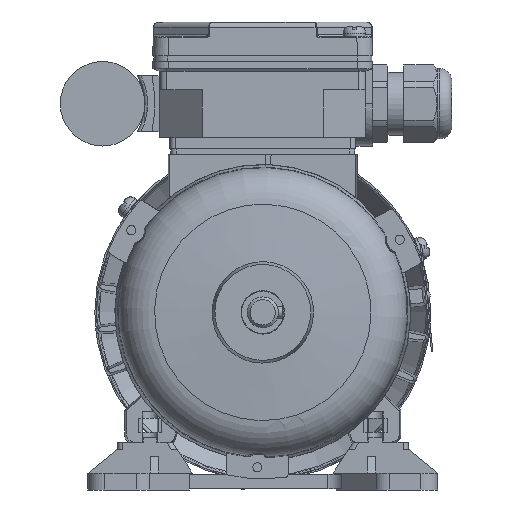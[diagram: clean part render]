
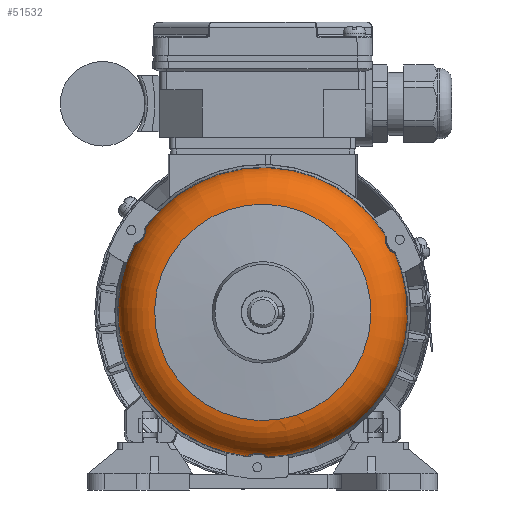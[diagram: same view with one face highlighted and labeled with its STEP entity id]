
A CAD part, left-side view. The second image highlights one B-rep face of the part: STEP entity #51532.
In plain terms, the highlighted toroidal (fillet/blend) face has major radius 37.281 mm and minor radius 14 mm.
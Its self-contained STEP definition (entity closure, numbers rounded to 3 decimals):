
#84=TOROIDAL_SURFACE('',#54806,37.281,14.);
#1177=B_SPLINE_CURVE_WITH_KNOTS('',3,(#78516,#78517,#78518,#78519,#78520,
#78521,#78522,#78523,#78524,#78525,#78526,#78527,#78528),.UNSPECIFIED.,
 .F.,.F.,(4,1,1,1,1,1,1,1,1,1,4),(0.,0.002,0.004,
0.006,0.007,0.007,0.008,
0.009,0.011,0.013,0.015),
 .UNSPECIFIED.);
#1178=B_SPLINE_CURVE_WITH_KNOTS('',3,(#78567,#78568,#78569,#78570,#78571,
#78572,#78573,#78574,#78575,#78576,#78577,#78578,#78579),.UNSPECIFIED.,
 .F.,.F.,(4,1,1,1,1,1,1,1,1,1,4),(0.,0.002,0.004,
0.006,0.007,0.007,0.008,
0.009,0.011,0.013,0.015),
 .UNSPECIFIED.);
#1179=B_SPLINE_CURVE_WITH_KNOTS('',3,(#78618,#78619,#78620,#78621,#78622,
#78623,#78624,#78625,#78626,#78627,#78628,#78629,#78630),.UNSPECIFIED.,
 .F.,.F.,(4,1,1,1,1,1,1,1,1,1,4),(0.,0.002,0.004,
0.006,0.007,0.007,0.008,
0.009,0.011,0.013,0.015),
 .UNSPECIFIED.);
#16563=ORIENTED_EDGE('',*,*,#23519,.F.);
#16564=ORIENTED_EDGE('',*,*,#23518,.T.);
#16565=ORIENTED_EDGE('',*,*,#23517,.F.);
#16566=ORIENTED_EDGE('',*,*,#23516,.T.);
#16567=ORIENTED_EDGE('',*,*,#23515,.F.);
#16568=ORIENTED_EDGE('',*,*,#23514,.T.);
#16569=ORIENTED_EDGE('',*,*,#23556,.T.);
#23514=EDGE_CURVE('',#27618,#27646,#1177,.T.);
#23515=EDGE_CURVE('',#27618,#27629,#29734,.T.);
#23516=EDGE_CURVE('',#27630,#27629,#1178,.T.);
#23517=EDGE_CURVE('',#27630,#27641,#29735,.T.);
#23518=EDGE_CURVE('',#27647,#27641,#1179,.T.);
#23519=EDGE_CURVE('',#27647,#27646,#29736,.T.);
#23556=EDGE_CURVE('',#27714,#27714,#29743,.T.);
#27618=VERTEX_POINT('',#77980);
#27629=VERTEX_POINT('',#78064);
#27630=VERTEX_POINT('',#78079);
#27641=VERTEX_POINT('',#78166);
#27646=VERTEX_POINT('',#78211);
#27647=VERTEX_POINT('',#78226);
#27714=VERTEX_POINT('',#78803);
#29734=CIRCLE('',#54783,51.279);
#29735=CIRCLE('',#54785,51.279);
#29736=CIRCLE('',#54787,51.279);
#29743=CIRCLE('',#54807,38.379);
#32008=EDGE_LOOP('',(#16563,#16564,#16565,#16566,#16567,#16568));
#32009=EDGE_LOOP('',(#16569));
#34456=FACE_BOUND('',#32008,.T.);
#34457=FACE_BOUND('',#32009,.T.);
#51532=ADVANCED_FACE('',(#34456,#34457),#84,.T.);
#54783=AXIS2_PLACEMENT_3D('',#78530,#63659,#63660);
#54785=AXIS2_PLACEMENT_3D('',#78581,#63663,#63664);
#54787=AXIS2_PLACEMENT_3D('',#78632,#63667,#63668);
#54806=AXIS2_PLACEMENT_3D('',#78801,#63705,#63706);
#54807=AXIS2_PLACEMENT_3D('',#78802,#63707,#63708);
#63659=DIRECTION('',(1.,0.,0.));
#63660=DIRECTION('',(0.,0.999,0.035));
#63663=DIRECTION('',(1.,0.,0.));
#63664=DIRECTION('',(0.,0.999,0.035));
#63667=DIRECTION('',(1.,0.,0.));
#63668=DIRECTION('',(0.,0.999,0.035));
#63705=DIRECTION('',(1.,0.,0.));
#63706=DIRECTION('',(0.,0.999,0.035));
#63707=DIRECTION('',(1.,0.,0.));
#63708=DIRECTION('',(0.,0.999,0.035));
#77980=CARTESIAN_POINT('',(-53.184,-46.784,20.995));
#78064=CARTESIAN_POINT('',(-53.184,-1.638,-51.252));
#78079=CARTESIAN_POINT('',(-53.184,5.21,-51.013));
#78166=CARTESIAN_POINT('',(-53.184,45.205,24.207));
#78211=CARTESIAN_POINT('',(-53.184,-43.567,27.045));
#78226=CARTESIAN_POINT('',(-53.184,41.574,30.018));
#78516=CARTESIAN_POINT('',(-53.184,-46.784,20.995));
#78517=CARTESIAN_POINT('',(-53.814,-46.775,20.987));
#78518=CARTESIAN_POINT('',(-55.053,-46.642,21.025));
#78519=CARTESIAN_POINT('',(-56.847,-46.084,21.293));
#78520=CARTESIAN_POINT('',(-58.143,-45.306,21.836));
#78521=CARTESIAN_POINT('',(-58.823,-44.572,22.632));
#78522=CARTESIAN_POINT('',(-59.019,-44.052,23.428));
#78523=CARTESIAN_POINT('',(-58.82,-43.685,24.302));
#78524=CARTESIAN_POINT('',(-58.135,-43.437,25.358));
#78525=CARTESIAN_POINT('',(-56.842,-43.423,26.301));
#78526=CARTESIAN_POINT('',(-55.048,-43.513,26.912));
#78527=CARTESIAN_POINT('',(-53.813,-43.555,27.042));
#78528=CARTESIAN_POINT('',(-53.184,-43.567,27.045));
#78530=CARTESIAN_POINT('',(-53.184,0.,0.));
#78567=CARTESIAN_POINT('',(-53.184,5.21,-51.013));
#78568=CARTESIAN_POINT('',(-53.814,5.212,-51.002));
#78569=CARTESIAN_POINT('',(-55.053,5.112,-50.906));
#78570=CARTESIAN_POINT('',(-56.847,4.602,-50.557));
#78571=CARTESIAN_POINT('',(-58.143,3.742,-50.155));
#78572=CARTESIAN_POINT('',(-58.823,2.686,-49.917));
#78573=CARTESIAN_POINT('',(-59.019,1.736,-49.864));
#78574=CARTESIAN_POINT('',(-58.82,0.796,-49.984));
#78575=CARTESIAN_POINT('',(-58.135,-0.243,-50.297));
#78576=CARTESIAN_POINT('',(-56.842,-1.065,-50.756));
#78577=CARTESIAN_POINT('',(-55.048,-1.55,-51.139));
#78578=CARTESIAN_POINT('',(-53.813,-1.642,-51.241));
#78579=CARTESIAN_POINT('',(-53.184,-1.638,-51.252));
#78581=CARTESIAN_POINT('',(-53.184,0.,0.));
#78618=CARTESIAN_POINT('',(-53.184,41.574,30.018));
#78619=CARTESIAN_POINT('',(-53.814,41.563,30.015));
#78620=CARTESIAN_POINT('',(-55.053,41.529,29.88));
#78621=CARTESIAN_POINT('',(-56.847,41.483,29.263));
#78622=CARTESIAN_POINT('',(-58.143,41.564,28.318));
#78623=CARTESIAN_POINT('',(-58.823,41.886,27.285));
#78624=CARTESIAN_POINT('',(-59.019,42.316,26.436));
#78625=CARTESIAN_POINT('',(-58.82,42.889,25.682));
#78626=CARTESIAN_POINT('',(-58.135,43.68,24.938));
#78627=CARTESIAN_POINT('',(-56.842,44.489,24.456));
#78628=CARTESIAN_POINT('',(-55.048,45.063,24.227));
#78629=CARTESIAN_POINT('',(-53.813,45.197,24.199));
#78630=CARTESIAN_POINT('',(-53.184,45.205,24.207));
#78632=CARTESIAN_POINT('',(-53.184,0.,0.));
#78801=CARTESIAN_POINT('',(-52.939,0.,0.));
#78802=CARTESIAN_POINT('',(-66.896,0.,0.));
#78803=CARTESIAN_POINT('',(-66.896,38.356,1.339));
